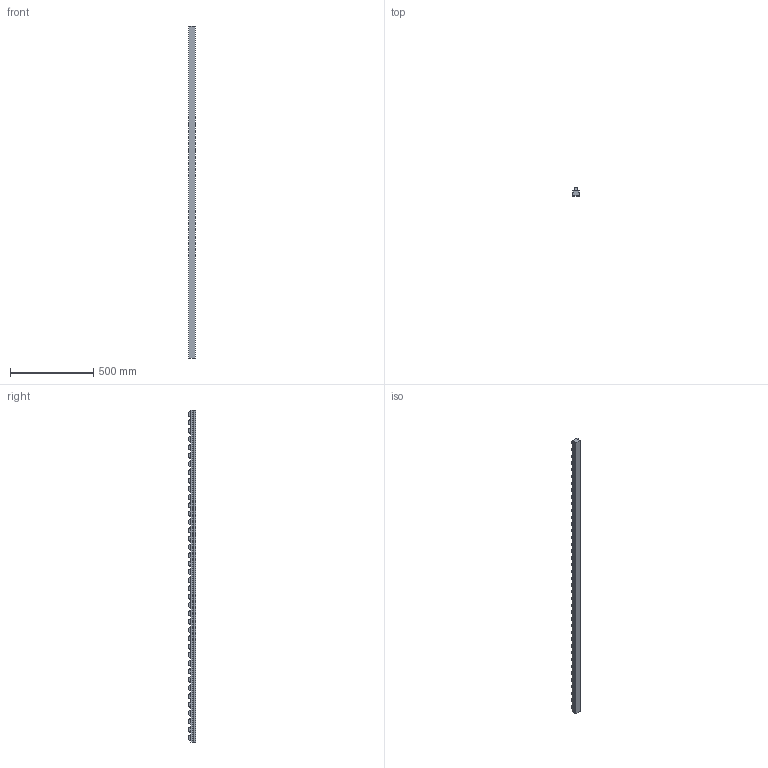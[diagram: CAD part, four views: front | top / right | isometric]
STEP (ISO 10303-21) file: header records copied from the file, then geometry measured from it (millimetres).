
FILE_DESCRIPTION (( 'STEP AP214' ), '1' );
FILE_NAME ('JB-50020_JB-50020S5.step', '2024-02-15T05:00:19', ( 'catia' ), ( 'HP Inc.' ), 'SwSTEP 2.0', 'SolidWorks 2021', '' );
FILE_SCHEMA (( 'AUTOMOTIVE_DESIGN' ));
Length unit declared in the file: millimetre
Products named in the file (1): JB-50020_JB-50020S5
Bounding box: 40 x 46 x 2000 mm (x, y, z)
Volume: 2719905.7 mm3; surface area: 370632.7 mm2
Topology: 1 solids, 1 shells, 134 faces, 276 edges, 184 vertices
Faces by surface type: plane 94, cylinder 40
Entity records: 3574 total; most frequent: DIRECTION 626, CARTESIAN_POINT 595, ORIENTED_EDGE 552, EDGE_CURVE 276, AXIS2_PLACEMENT_3D 215, LINE 196, VECTOR 196, VERTEX_POINT 184
